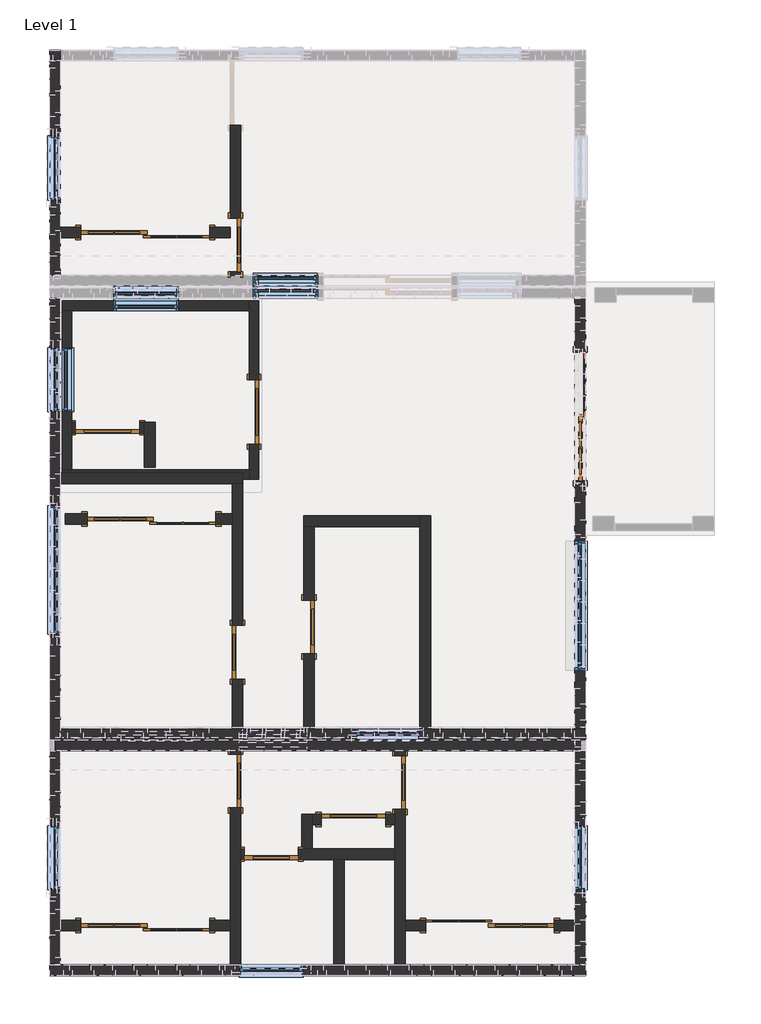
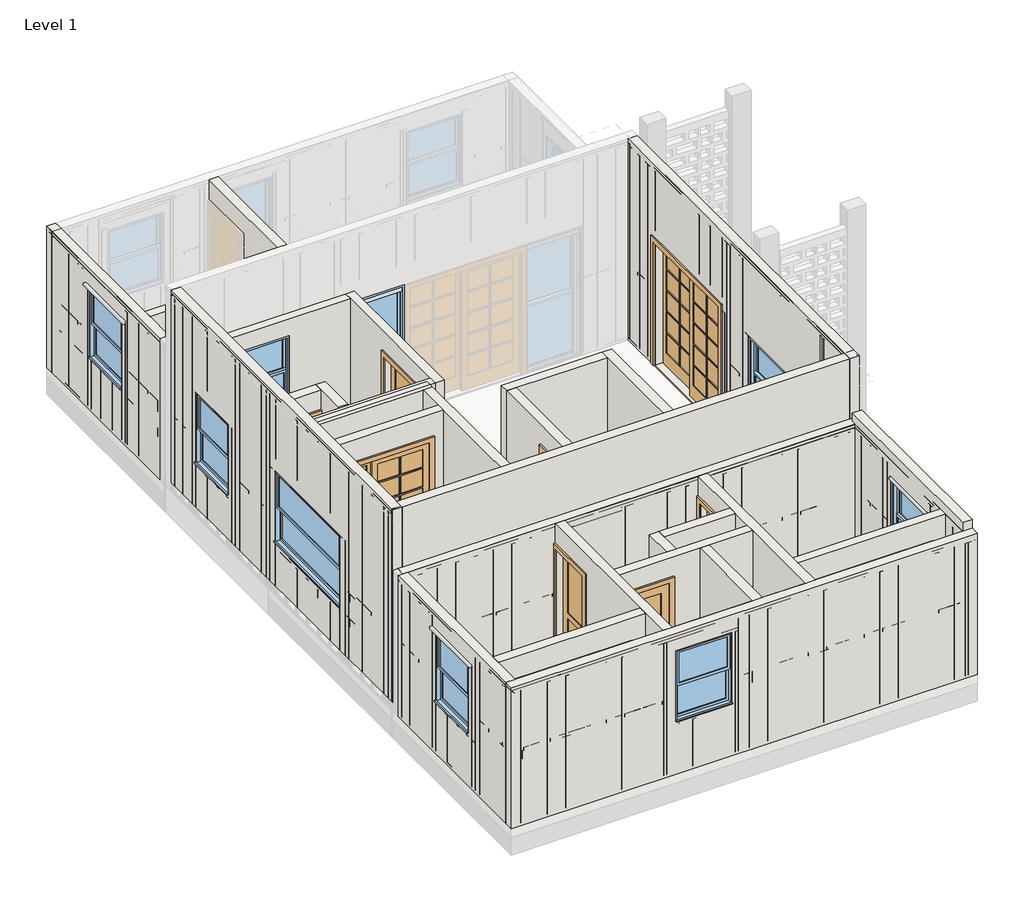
# One storey, part 1 of 12: 30 walls, 14 doors, 13 windows.
"""IFC4 building model written with IfcOpenShell, lengths in millimetres."""

from ifc_helpers import new_model, si_unit, frame, origin, origin_with_axes, place, context, project, spatial, polyline, outline, extrude, faceted_brep, transform, mapped, element, save
from components import door_de661ade, door_8a7407ed, door_c7a96677, door_d17baa25, door_c800ad3f, door_789d9d7f, window_d6fe7540, window_cbc6d26e, window_0abbe968, window_8e2a3c93, window_a0d1c1f7

model = new_model("IFC4")

# Units and contexts
model_context = context("Model", 3, world=origin())
ifc_project = project(units=[si_unit("LENGTHUNIT", "METRE", prefix="MILLI")], contexts=[model_context])

# Site, building, storey
site = spatial("IfcSite", under=ifc_project)
building = spatial("IfcBuilding", under=site)
storey = spatial("IfcBuildingStorey", under=building, Name="Level 1", Elevation=0.0)

# Doors
placement = place(None, origin())
door_shape = door_de661ade(model_context)
element("IfcDoor", 1, ObjectType="Single-Panel 1 : 30\" x 80\"", at=placement, inside=storey, context=model_context, shape_type="MappedRepresentation", body=[
    mapped(door_shape, transform((-8857.5990766, -23941.5763369, 0.0), x_axis=(0.0, 1.0, 0.0), y_axis=(-1.0, 0.0, 0.0), z_axis=(0.0, 0.0, 1.0))),
])
element("IfcDoor", 2, ObjectType="Single-Panel 1 : 30\" x 80\"", at=placement, inside=storey, context=model_context, shape_type="MappedRepresentation", body=[
    mapped(door_shape, transform((-7841.5990766, -23581.2138369, 0.0), x_axis=(0.0, -1.0, 0.0), y_axis=(1.0, 0.0, 0.0), z_axis=(0.0, 0.0, 1.0))),
])
element("IfcDoor", 3, ObjectType="Single-Panel 1 : 30\" x 80\"", at=placement, inside=storey, context=model_context, shape_type="MappedRepresentation", body=[
    mapped(door_shape, transform((-8380.0790766, -26811.7763369, 0.0), x_axis=(-1.0, 0.0, 0.0), y_axis=(0.0, -1.0, 0.0), z_axis=(0.0, 0.0, 1.0))),
])
element("IfcDoor", 4, ObjectType="Single-Panel 1 : 30\" x 80\"", at=placement, inside=storey, context=model_context, shape_type="MappedRepresentation", body=[
    mapped(door_shape, transform((-8888.0790766, -25770.3763369, 0.0), x_axis=(0.0, -1.0, 0.0), y_axis=(1.0, 0.0, 0.0), z_axis=(0.0, 0.0, 1.0))),
])
element("IfcDoor", 5, ObjectType="Single-Panel 1 : 30\" x 80\"", at=placement, inside=storey, context=model_context, shape_type="MappedRepresentation", body=[
    mapped(door_shape, transform((-6551.2790766, -25790.9824702, 0.0), x_axis=(0.0, -1.0, 0.0), y_axis=(1.0, 0.0, 0.0), z_axis=(0.0, 0.0, 1.0))),
])
door_2_shape = door_8a7407ed(model_context)
element("IfcDoor", 6, ObjectType="Single-Panel 1 : 30\" x 80\"", at=placement, inside=storey, context=model_context, shape_type="MappedRepresentation", body=[
    mapped(door_2_shape, transform((-8888.0790766, -18150.4431336, 0.0), x_axis=(0.0, 1.0, 0.0), y_axis=(-1.0, 0.0, 0.0), z_axis=(0.0, 0.0, 1.0))),
])
door_3_shape = door_c7a96677(model_context)
element("IfcDoor", 7, ObjectType="Single-Panel 1 : 36\" x 80\"", at=placement, inside=storey, context=model_context, shape_type="MappedRepresentation", body=[
    mapped(door_3_shape, transform((-8625.7705933, -20524.5216019, 0.0), x_axis=(0.0, 1.0, 0.0), y_axis=(-1.0, 0.0, 0.0), z_axis=(0.0, 0.0, 1.0))),
])
door_4_shape = door_d17baa25(model_context)
element("IfcDoor", 8, ObjectType="Single-Panel 1 : 36\" x 80\"", at=placement, inside=storey, context=model_context, shape_type="MappedRepresentation", body=[
    mapped(door_4_shape, transform((-7211.6790766, -26319.5886036, 0.0), x_axis=(1.0, 0.0, 0.0), y_axis=(0.0, 1.0, 0.0), z_axis=(0.0, 0.0, 1.0))),
])
element("IfcDoor", 9, ObjectType="Single-Panel 1 : 36\" x 80\"", at=placement, inside=storey, context=model_context, shape_type="MappedRepresentation", body=[
    mapped(door_4_shape, transform((-10707.9890766, -20750.7013369, 0.0), x_axis=(-1.0, 0.0, 0.0), y_axis=(0.0, -1.0, 0.0), z_axis=(0.0, 0.0, 1.0))),
])
door_5_shape = door_c800ad3f(model_context)
element("IfcDoor", 10, ObjectType="Sliding-2 Panel 2 : 72\" x 78\"", at=placement, inside=storey, context=model_context, shape_type="MappedRepresentation", body=[
    mapped(door_5_shape, transform((-5268.5790766, -27951.6013369, 0.0), x_axis=(1.0, 0.0, 0.0), y_axis=(0.0, 1.0, 0.0), z_axis=(0.0, 0.0, 1.0))),
])
element("IfcDoor", 11, ObjectType="Sliding-2 Panel 2 : 72\" x 78\"", at=placement, inside=storey, context=model_context, shape_type="MappedRepresentation", body=[
    mapped(door_5_shape, transform((-10170.7790766, -27697.6013369, 0.0), x_axis=(-1.0, 0.0, 0.0), y_axis=(0.0, -1.0, 0.0), z_axis=(0.0, 0.0, 1.0))),
])
element("IfcDoor", 12, ObjectType="Sliding-2 Panel 2 : 72\" x 78\"", at=placement, inside=storey, context=model_context, shape_type="MappedRepresentation", body=[
    mapped(door_5_shape, transform((-10083.1490766, -21919.1013369, 0.0), x_axis=(-1.0, 0.0, 0.0), y_axis=(0.0, -1.0, 0.0), z_axis=(0.0, 0.0, 1.0))),
])
element("IfcDoor", 13, ObjectType="Sliding-2 Panel 2 : 72\" x 78\"", at=placement, inside=storey, context=model_context, shape_type="MappedRepresentation", body=[
    mapped(door_5_shape, transform((-10170.7790766, -17845.6431336, 0.0), x_axis=(-1.0, 0.0, 0.0), y_axis=(0.0, -1.0, 0.0), z_axis=(0.0, 0.0, 1.0))),
])
door_6_shape = door_789d9d7f(model_context)
element("IfcDoor", 14, ObjectType="Sliding-2 Panel 2 : 72\" x 84\"", at=placement, inside=storey, context=model_context, shape_type="MappedRepresentation", body=[
    mapped(door_6_shape, transform((-4112.8790766, -20588.7763369, 25.4), x_axis=(0.0, -1.0, 0.0), y_axis=(1.0, 0.0, 0.0), z_axis=(0.0, 0.0, 1.0))),
])

# Walls
element("IfcWall", 15, ObjectType="CWXX - 6in CIP Conc", at=placement, inside=storey, context=model_context, shape_type="SweptSolid", body=[
    extrude(outline(polyline([(-18912.3763369, 152.4), (-25186.1763369, 152.4), (-25186.1763369, 3479.8), (-18912.3763369, 3479.8), (-18912.3763369, 152.4)]), holes=[polyline([(-21858.7763369, 2133.6), (-23687.5763369, 2133.6), (-23687.5763369, 914.4), (-21858.7763369, 914.4), (-21858.7763369, 2133.6)]), polyline([(-19610.8763369, 2133.6), (-20525.2763369, 2133.6), (-20525.2763369, 914.4), (-19610.8763369, 914.4), (-19610.8763369, 2133.6)])]), frame((-11529.6790766, 0.0, 0.0), z_axis=(1.0, 0.0, 0.0), x_axis=(0.0, 1.0, 0.0)), (0.0, 0.0, 1.0), 152.4),
])
element("IfcWall", 16, ObjectType="CWXX - 6in CIP Conc", at=placement, inside=storey, context=model_context, shape_type="Brep", body=[
    faceted_brep([(-11377.2790766, -25186.1763369, 0.0), (-3985.8790766, -25186.1763369, 0.0), (-3909.6790766, -25186.1763369, 0.0), (-3909.6790766, -25186.1763369, 3482.456975), (-11377.2790766, -25186.1763369, 3482.456975), (-11377.2790766, -25186.1763369, 3479.8), (-11377.2790766, -25186.1763369, 152.4), (-7181.199102, -25186.1763369, 2133.6), (-6266.799102, -25186.1763369, 2133.6), (-6266.799102, -25186.1763369, 914.4), (-7181.199102, -25186.1763369, 914.4), (-11377.2790766, -25033.7763369, 0.0), (-11377.2790766, -25033.7763369, 3482.456975), (-3909.6790766, -25033.7763369, 3482.456975), (-3909.6790766, -25033.7763369, 0.0), (-6114.399102, -25033.7763369, 0.0), (-6266.799102, -25033.7763369, 0.0), (-7765.3990766, -25033.7763369, 0.0), (-7917.7990766, -25033.7763369, 0.0), (-8781.3990766, -25033.7763369, 0.0), (-8933.7990766, -25033.7763369, 0.0), (-7181.199102, -25033.7763369, 2133.6), (-7181.199102, -25033.7763369, 914.4), (-6266.799102, -25033.7763369, 914.4), (-6266.799102, -25033.7763369, 2133.6)], [[[0, 1, 2, 3, 4, 5, 6], [7, 8, 9, 10]], [[11, 12, 13, 14, 15, 16, 17, 18, 19, 20], [21, 22, 23, 24]], [[2, 1, 0, 11, 20, 19, 18, 17, 16, 15, 14]], [[4, 3, 13, 12]], [[22, 21, 7, 10]], [[23, 22, 10, 9]], [[24, 23, 9, 8]], [[21, 24, 8, 7]], [[2, 14, 13, 3]], [[0, 6, 5, 4, 12, 11]]]),
])
element("IfcWall", 17, ObjectType="CWXX - 6in CIP Conc", at=placement, inside=storey, context=model_context, shape_type="Brep", body=[
    faceted_brep([(-4062.0790766, -18912.3763369, 0.0), (-4062.0790766, -25186.1763369, 0.0), (-4062.0790766, -25186.1763369, 3482.456975), (-4062.0790766, -18912.3763369, 3482.456975), (-4062.0790766, -19674.3763369, 2159.0), (-4062.0790766, -21503.1763369, 2159.0), (-4062.0790766, -21503.1763369, 25.4), (-4062.0790766, -19674.3763369, 25.4), (-4062.0790766, -24195.1814003, 2133.6), (-4062.0790766, -24195.1814003, 914.4), (-4062.0790766, -22366.3814003, 914.4), (-4062.0790766, -22366.3814003, 2133.6), (-3909.6790766, -18912.3763369, 0.0), (-3909.6790766, -18912.3763369, 3482.456975), (-3909.6790766, -25186.1763369, 3482.456975), (-3909.6790766, -25186.1763369, 0.0), (-3909.6790766, -19674.3763369, 2159.0), (-3909.6790766, -19674.3763369, 25.4), (-3909.6790766, -21503.1763369, 25.4), (-3909.6790766, -21503.1763369, 2159.0), (-3909.6790766, -24195.1814003, 2133.6), (-3909.6790766, -22366.3814003, 2133.6), (-3909.6790766, -22366.3814003, 914.4), (-3909.6790766, -24195.1814003, 914.4), (-3985.8790766, -25186.1763369, 0.0)], [[[0, 1, 2, 3], [4, 5, 6, 7], [8, 9, 10, 11]], [[12, 13, 14, 15], [16, 17, 18, 19], [20, 21, 22, 23]], [[1, 0, 12, 15, 24]], [[3, 2, 14, 13]], [[0, 3, 13, 12]], [[17, 16, 4, 7]], [[18, 17, 7, 6]], [[19, 18, 6, 5]], [[16, 19, 5, 4]], [[9, 8, 20, 23]], [[10, 9, 23, 22]], [[11, 10, 22, 21]], [[8, 11, 21, 20]], [[2, 1, 24, 15, 14]]]),
])
element("IfcWall", 18, ObjectType="CWXX - 6in CIP Conc", at=placement, inside=storey, context=model_context, shape_type="Brep", body=[
    faceted_brep([(-11377.2790766, -21544.4513369, 0.0), (-8933.7990766, -21544.4513369, 0.0), (-8781.3990766, -21544.4513369, 0.0), (-8781.3990766, -21544.4513369, 2438.4), (-8933.7990766, -21544.4513369, 2438.4), (-11353.2990766, -21544.4513369, 2438.4), (-11377.2790766, -21544.4513369, 2438.4), (-11377.2790766, -21392.0513369, 0.0), (-11377.2790766, -21392.0513369, 2438.4), (-11353.2990766, -21392.0513369, 2438.4), (-8781.3990766, -21392.0513369, 2438.4), (-8781.3990766, -21392.0513369, 0.0), (-8781.3990766, -21483.5216019, 2438.4), (-11377.2790766, -21483.5216019, 2438.4), (-11353.2990766, -21483.5216019, 2438.4)], [[[0, 1, 2, 3, 4, 5, 6]], [[7, 8, 9, 10, 11]], [[2, 1, 0, 7, 11]], [[3, 2, 11, 10, 12]], [[0, 6, 13, 8, 7]], [[9, 8, 13, 14]], [[5, 4, 3, 12, 14]], [[6, 5, 14, 13]], [[12, 10, 9, 14]]]),
])
element("IfcWall", 19, ObjectType="CWXX - 6in CIP Conc", at=placement, inside=storey, context=model_context, shape_type="Brep", body=[
    faceted_brep([(-8933.7990766, -21544.4513369, 0.0), (-8933.7990766, -21969.9013369, 0.0), (-8933.7990766, -22122.3013369, 0.0), (-8933.7990766, -23560.5763369, 0.0), (-8933.7990766, -23560.5763369, 2032.0), (-8933.7990766, -24322.5763369, 2032.0), (-8933.7990766, -24322.5763369, 0.0), (-8933.7990766, -25033.7763369, 0.0), (-8933.7990766, -25033.7763369, 2438.4), (-8933.7990766, -22122.3013369, 2438.4), (-8933.7990766, -21969.9013369, 2438.4), (-8933.7990766, -21544.4513369, 2438.4), (-8781.3990766, -23560.5763369, 2032.0), (-8781.3990766, -23560.5763369, 0.0), (-8781.3990766, -21544.4513369, 0.0), (-8781.3990766, -21544.4513369, 2438.4), (-8781.3990766, -25033.7763369, 2438.4), (-8781.3990766, -25033.7763369, 0.0), (-8781.3990766, -24322.5763369, 0.0), (-8781.3990766, -24322.5763369, 2032.0)], [[[0, 1, 2, 3, 4, 5, 6, 7, 8, 9, 10, 11]], [[12, 13, 14, 15, 16, 17, 18, 19]], [[18, 17, 7, 6]], [[14, 13, 3, 2, 1, 0]], [[11, 10, 9, 8, 16, 15]], [[0, 11, 15, 14]], [[8, 7, 17, 16]], [[4, 3, 13, 12]], [[5, 4, 12, 19]], [[6, 5, 19, 18]]]),
])
element("IfcWall", 20, ObjectType="CWXX - 6in CIP Conc", at=placement, inside=storey, context=model_context, shape_type="Brep", body=[
    faceted_brep([(-6114.399102, -25033.7763369, 0.0), (-6114.399102, -22001.6513369, 0.0), (-6114.399102, -22001.6513369, 2438.4), (-6114.399102, -25033.7763369, 2438.4), (-6266.799102, -25033.7763369, 0.0), (-6266.799102, -25033.7763369, 914.4), (-6266.799102, -25033.7763369, 2133.6), (-6266.799102, -25033.7763369, 2438.4), (-6266.799102, -22154.0513369, 2438.4), (-6266.799102, -22001.6513369, 2438.4), (-6266.799102, -22001.6513369, 0.0), (-6266.799102, -22154.0513369, 0.0)], [[[0, 1, 2, 3]], [[4, 5, 6, 7, 8, 9, 10, 11]], [[1, 0, 4, 11, 10]], [[3, 2, 9, 8, 7]], [[2, 1, 10, 9]], [[0, 3, 7, 6, 5, 4]]]),
])
element("IfcWall", 21, ObjectType="CWXX - 6in CIP Conc", at=placement, inside=storey, context=model_context, shape_type="Brep", body=[
    faceted_brep([(-7917.7990766, -22154.0513369, 0.0), (-7765.3990766, -22154.0513369, 0.0), (-6266.799102, -22154.0513369, 0.0), (-6266.799102, -22154.0513369, 2438.4), (-7765.3990766, -22154.0513369, 2438.4), (-7917.7990766, -22154.0513369, 2438.4), (-7917.7990766, -22001.6513369, 0.0), (-7917.7990766, -22001.6513369, 2438.4), (-6266.799102, -22001.6513369, 2438.4), (-6266.799102, -22001.6513369, 0.0)], [[[0, 1, 2, 3, 4, 5]], [[6, 7, 8, 9]], [[2, 1, 0, 6, 9]], [[5, 4, 3, 8, 7]], [[3, 2, 9, 8]], [[0, 5, 7, 6]]]),
])
element("IfcWall", 22, ObjectType="CWXX - 6in CIP Conc", at=placement, inside=storey, context=model_context, shape_type="SweptSolid", body=[
    extrude(outline(polyline([(-23962.2138369, 2032.0), (-23962.2138369, 0.0), (-25033.7763369, 0.0), (-25033.7763369, 2438.4), (-22154.0513369, 2438.4), (-22154.0513369, 0.0), (-23200.2138369, 0.0), (-23200.2138369, 2032.0), (-23962.2138369, 2032.0)])), frame((-7917.7990766, 0.0, 0.0), z_axis=(1.0, 0.0, 0.0), x_axis=(0.0, 1.0, 0.0)), (0.0, 0.0, 1.0), 152.4),
])
element("IfcWall", 23, ObjectType="MWXX - 6in Masonry", at=placement, inside=storey, context=model_context, shape_type="Brep", body=[
    faceted_brep([(-11353.2990766, -19083.9763369, 0.0), (-11213.2990766, -19083.9763369, 0.0), (-8695.7705933, -19083.9763369, 0.0), (-8695.7705933, -19083.9763369, 2438.4), (-11213.2990766, -19083.9763369, 2438.4), (-11353.2990766, -19083.9763369, 2438.4), (-9700.8790766, -19083.9763369, 2152.65), (-9700.8790766, -19083.9763369, 933.45), (-10615.2790766, -19083.9763369, 933.45), (-10615.2790766, -19083.9763369, 2152.65), (-11353.2990766, -18943.9763369, 0.0), (-11353.2990766, -18943.9763369, 2438.4), (-8695.7705933, -18943.9763369, 2438.4), (-8695.7705933, -18943.9763369, 0.0), (-9700.8790766, -18943.9763369, 2152.65), (-10615.2790766, -18943.9763369, 2152.65), (-10615.2790766, -18943.9763369, 933.45), (-9700.8790766, -18943.9763369, 933.45)], [[[0, 1, 2, 3, 4, 5], [6, 7, 8, 9]], [[10, 11, 12, 13], [14, 15, 16, 17]], [[2, 1, 0, 10, 13]], [[0, 5, 11, 10]], [[5, 4, 3, 12, 11]], [[7, 6, 14, 17]], [[8, 7, 17, 16]], [[9, 8, 16, 15]], [[6, 9, 15, 14]], [[3, 2, 13, 12]]]),
])
element("IfcWall", 24, ObjectType="MWXX - 6in Masonry", at=placement, inside=storey, context=model_context, shape_type="Brep", body=[
    faceted_brep([(-11213.2990766, -21343.5216019, 0.0), (-11213.2990766, -20826.9013369, 0.0), (-11213.2990766, -20674.5013369, 0.0), (-11213.2990766, -19083.9763369, 0.0), (-11213.2990766, -19083.9763369, 2438.4), (-11213.2990766, -20674.5013369, 2438.4), (-11213.2990766, -20826.9013369, 2438.4), (-11213.2990766, -21343.5216019, 2438.4), (-11213.2990766, -20523.6888369, 2133.6), (-11213.2990766, -19609.2888369, 2133.6), (-11213.2990766, -19609.2888369, 914.4), (-11213.2990766, -20523.6888369, 914.4), (-11353.2990766, -21343.5216019, 0.0), (-11353.2990766, -21343.5216019, 2438.4), (-11353.2990766, -19083.9763369, 2438.4), (-11353.2990766, -19083.9763369, 0.0), (-11353.2990766, -20523.6888369, 2133.6), (-11353.2990766, -20523.6888369, 914.4), (-11353.2990766, -19609.2888369, 914.4), (-11353.2990766, -19609.2888369, 2133.6)], [[[0, 1, 2, 3, 4, 5, 6, 7], [8, 9, 10, 11]], [[12, 13, 14, 15], [16, 17, 18, 19]], [[3, 2, 1, 0, 12, 15]], [[4, 3, 15, 14]], [[17, 16, 8, 11]], [[18, 17, 11, 10]], [[19, 18, 10, 9]], [[16, 19, 9, 8]], [[7, 6, 5, 4, 14, 13]], [[0, 7, 13, 12]]]),
])
element("IfcWall", 25, ObjectType="CWXX - 6in CIP Conc", at=placement, inside=storey, context=model_context, shape_type="Brep", body=[
    faceted_brep([(-11529.6790766, -28538.9763369, 0.0), (-3909.6790766, -28538.9763369, 0.0), (-3909.6790766, -28538.9763369, 2438.4), (-11529.6790766, -28538.9763369, 2438.4), (-8837.2790766, -28538.9763369, 2133.6), (-7922.8790766, -28538.9763369, 2133.6), (-7922.8790766, -28538.9763369, 914.4), (-8837.2790766, -28538.9763369, 914.4), (-11529.6790766, -28386.5763369, 0.0), (-11529.6790766, -28386.5763369, 2438.4), (-11377.2790766, -28386.5763369, 2438.4), (-8964.2790766, -28386.5763369, 2438.4), (-8811.8790766, -28386.5763369, 2438.4), (-7491.0790766, -28386.5763369, 2438.4), (-7338.6790766, -28386.5763369, 2438.4), (-6627.4790766, -28386.5763369, 2438.4), (-6475.0790766, -28386.5763369, 2438.4), (-3909.6790766, -28386.5763369, 2438.4), (-3909.6790766, -28386.5763369, 0.0), (-4062.0790766, -28386.5763369, 0.0), (-6475.0790766, -28386.5763369, 0.0), (-6627.4790766, -28386.5763369, 0.0), (-7338.6790766, -28386.5763369, 0.0), (-7491.0790766, -28386.5763369, 0.0), (-8811.8790766, -28386.5763369, 0.0), (-8964.2790766, -28386.5763369, 0.0), (-11377.2790766, -28386.5763369, 0.0), (-8837.2790766, -28386.5763369, 2133.6), (-8837.2790766, -28386.5763369, 914.4), (-7922.8790766, -28386.5763369, 914.4), (-7922.8790766, -28386.5763369, 2133.6)], [[[0, 1, 2, 3], [4, 5, 6, 7]], [[8, 9, 10, 11, 12, 13, 14, 15, 16, 17, 18, 19, 20, 21, 22, 23, 24, 25, 26], [27, 28, 29, 30]], [[1, 0, 8, 26, 25, 24, 23, 22, 21, 20, 19, 18]], [[3, 2, 17, 16, 15, 14, 13, 12, 11, 10, 9]], [[2, 1, 18, 17]], [[0, 3, 9, 8]], [[28, 27, 4, 7]], [[29, 28, 7, 6]], [[30, 29, 6, 5]], [[27, 30, 5, 4]]]),
])
element("IfcWall", 26, ObjectType="CWXX - 6in CIP Conc", at=placement, inside=storey, context=model_context, shape_type="Brep", body=[
    faceted_brep([(-3909.6790766, -28386.5763369, 0.0), (-3909.6790766, -25338.5763369, 0.0), (-3909.6790766, -25338.5763369, 2438.4), (-3909.6790766, -25262.3763369, 2438.4), (-3909.6790766, -25262.3763369, 2590.8), (-3909.6790766, -28386.5763369, 2590.8), (-3909.6790766, -28386.5763369, 2438.4), (-3909.6790766, -27319.7763369, 2133.6), (-3909.6790766, -26405.3763369, 2133.6), (-3909.6790766, -26405.3763369, 914.4), (-3909.6790766, -27319.7763369, 914.4), (-4062.0790766, -28386.5763369, 0.0), (-4062.0790766, -28386.5763369, 2590.8), (-4062.0790766, -25262.3763369, 2590.8), (-4062.0790766, -25262.3763369, 2438.4), (-4062.0790766, -25338.5763369, 2438.4), (-4062.0790766, -25338.5763369, 0.0), (-4062.0790766, -27748.4013369, 0.0), (-4062.0790766, -27900.8013369, 0.0), (-4062.0790766, -27319.7763369, 2133.6), (-4062.0790766, -27319.7763369, 914.4), (-4062.0790766, -26405.3763369, 914.4), (-4062.0790766, -26405.3763369, 2133.6), (-3985.8790766, -25338.5763369, 0.0), (-3985.8790766, -25338.5763369, 2438.4)], [[[0, 1, 2, 3, 4, 5, 6], [7, 8, 9, 10]], [[11, 12, 13, 14, 15, 16, 17, 18], [19, 20, 21, 22]], [[1, 0, 11, 18, 17, 16, 23]], [[5, 4, 13, 12]], [[0, 6, 5, 12, 11]], [[20, 19, 7, 10]], [[21, 20, 10, 9]], [[22, 21, 9, 8]], [[19, 22, 8, 7]], [[4, 3, 14, 13]], [[2, 1, 23, 16, 15, 24]], [[14, 3, 2, 24, 15]]]),
])
element("IfcWall", 27, ObjectType="CWXX - 6in CIP Conc", at=placement, inside=storey, context=model_context, shape_type="Brep", body=[
    faceted_brep([(-3985.8790766, -25186.1763369, 0.0), (-4062.0790766, -25186.1763369, 0.0), (-11377.2790766, -25186.1763369, 0.0), (-11453.4790766, -25186.1763369, 0.0), (-11453.4790766, -25186.1763369, 2438.4), (-3985.8790766, -25186.1763369, 2438.4), (-3985.8790766, -25338.5763369, 0.0), (-3985.8790766, -25338.5763369, 2438.4), (-4062.0790766, -25338.5763369, 2438.4), (-6475.0790766, -25338.5763369, 2438.4), (-6627.4790766, -25338.5763369, 2438.4), (-8811.8790766, -25338.5763369, 2438.4), (-8964.2790766, -25338.5763369, 2438.4), (-11377.2790766, -25338.5763369, 2438.4), (-11453.4790766, -25338.5763369, 2438.4), (-11453.4790766, -25338.5763369, 0.0), (-11377.2790766, -25338.5763369, 0.0), (-8964.2790766, -25338.5763369, 0.0), (-8811.8790766, -25338.5763369, 0.0), (-6627.4790766, -25338.5763369, 0.0), (-6475.0790766, -25338.5763369, 0.0), (-4062.0790766, -25338.5763369, 0.0)], [[[0, 1, 2, 3, 4, 5]], [[6, 7, 8, 9, 10, 11, 12, 13, 14, 15, 16, 17, 18, 19, 20, 21]], [[3, 2, 1, 0, 6, 21, 20, 19, 18, 17, 16, 15]], [[4, 3, 15, 14]], [[5, 4, 14, 13, 12, 11, 10, 9, 8, 7]], [[0, 5, 7, 6]]]),
])
element("IfcWall", 28, ObjectType="CWXX - 6in CIP Conc", at=placement, inside=storey, context=model_context, shape_type="Brep", body=[
    faceted_brep([(-11529.6790766, -25338.5763369, 0.0), (-11529.6790766, -28386.5763369, 0.0), (-11529.6790766, -28386.5763369, 2438.4), (-11529.6790766, -25338.5763369, 2438.4), (-11529.6790766, -26405.3763369, 2133.6), (-11529.6790766, -27319.7763369, 2133.6), (-11529.6790766, -27319.7763369, 914.4), (-11529.6790766, -26405.3763369, 914.4), (-11377.2790766, -25338.5763369, 0.0), (-11377.2790766, -25338.5763369, 2438.4), (-11377.2790766, -27748.4013369, 2438.4), (-11377.2790766, -27900.8013369, 2438.4), (-11377.2790766, -28386.5763369, 2438.4), (-11377.2790766, -28386.5763369, 0.0), (-11377.2790766, -27900.8013369, 0.0), (-11377.2790766, -27748.4013369, 0.0), (-11377.2790766, -26405.3763369, 2133.6), (-11377.2790766, -26405.3763369, 914.4), (-11377.2790766, -27319.7763369, 914.4), (-11377.2790766, -27319.7763369, 2133.6), (-11453.4790766, -25338.5763369, 0.0), (-11453.4790766, -25338.5763369, 2438.4)], [[[0, 1, 2, 3], [4, 5, 6, 7]], [[8, 9, 10, 11, 12, 13, 14, 15], [16, 17, 18, 19]], [[1, 0, 20, 8, 15, 14, 13]], [[3, 2, 12, 11, 10, 9, 21]], [[17, 16, 4, 7]], [[18, 17, 7, 6]], [[19, 18, 6, 5]], [[16, 19, 5, 4]], [[0, 3, 21, 9, 8, 20]], [[2, 1, 13, 12]]]),
])
element("IfcWall", 29, ObjectType="CWXX - 6in CIP Conc", at=placement, inside=storey, context=model_context, shape_type="Brep", body=[
    faceted_brep([(-8811.8790766, -28386.5763369, 0.0), (-8811.8790766, -26887.9763369, 0.0), (-8811.8790766, -26735.5763369, 0.0), (-8811.8790766, -26151.3763369, 0.0), (-8811.8790766, -26151.3763369, 2032.0), (-8811.8790766, -25389.3763369, 2032.0), (-8811.8790766, -25389.3763369, 0.0), (-8811.8790766, -25338.5763369, 0.0), (-8811.8790766, -25338.5763369, 2438.4), (-8811.8790766, -26735.5763369, 2438.4), (-8811.8790766, -26887.9763369, 2438.4), (-8811.8790766, -28386.5763369, 2438.4), (-8964.2790766, -26151.3763369, 2032.0), (-8964.2790766, -26151.3763369, 0.0), (-8964.2790766, -27748.4013369, 0.0), (-8964.2790766, -27900.8013369, 0.0), (-8964.2790766, -28386.5763369, 0.0), (-8964.2790766, -28386.5763369, 2438.4), (-8964.2790766, -27900.8013369, 2438.4), (-8964.2790766, -27748.4013369, 2438.4), (-8964.2790766, -25338.5763369, 2438.4), (-8964.2790766, -25338.5763369, 0.0), (-8964.2790766, -25389.3763369, 0.0), (-8964.2790766, -25389.3763369, 2032.0)], [[[0, 1, 2, 3, 4, 5, 6, 7, 8, 9, 10, 11]], [[12, 13, 14, 15, 16, 17, 18, 19, 20, 21, 22, 23]], [[22, 21, 7, 6]], [[16, 15, 14, 13, 3, 2, 1, 0]], [[11, 10, 9, 8, 20, 19, 18, 17]], [[0, 11, 17, 16]], [[8, 7, 21, 20]], [[4, 3, 13, 12]], [[5, 4, 12, 23]], [[6, 5, 23, 22]]]),
])
element("IfcWall", 30, ObjectType="CWXX - 6in CIP Conc", at=placement, inside=storey, context=model_context, shape_type="SweptSolid", body=[
    extrude(outline(polyline([(-7338.6790766, -26887.9763369), (-7338.6790766, -28386.5763369), (-7491.0790766, -28386.5763369), (-7491.0790766, -26887.9763369), (-7338.6790766, -26887.9763369)])), origin_with_axes(), (0.0, 0.0, 1.0), 2438.4),
])
element("IfcWall", 31, ObjectType="CWXX - 6in CIP Conc", at=placement, inside=storey, context=model_context, shape_type="Brep", body=[
    faceted_brep([(-6475.0790766, -28386.5763369, 0.0), (-6475.0790766, -27900.8013369, 0.0), (-6475.0790766, -27748.4013369, 0.0), (-6475.0790766, -26171.9824702, 0.0), (-6475.0790766, -26171.9824702, 2032.0), (-6475.0790766, -25409.9824702, 2032.0), (-6475.0790766, -25409.9824702, 0.0), (-6475.0790766, -25338.5763369, 0.0), (-6475.0790766, -25338.5763369, 2438.4), (-6475.0790766, -27748.4013369, 2438.4), (-6475.0790766, -27900.8013369, 2438.4), (-6475.0790766, -28386.5763369, 2438.4), (-6627.4790766, -26171.9824702, 2032.0), (-6627.4790766, -26171.9824702, 0.0), (-6627.4790766, -26243.3886036, 0.0), (-6627.4790766, -26395.7886036, 0.0), (-6627.4790766, -26735.5763369, 0.0), (-6627.4790766, -26887.9763369, 0.0), (-6627.4790766, -28386.5763369, 0.0), (-6627.4790766, -28386.5763369, 2438.4), (-6627.4790766, -26887.9763369, 2438.4), (-6627.4790766, -26735.5763369, 2438.4), (-6627.4790766, -26395.7886036, 2438.4), (-6627.4790766, -26243.3886036, 2438.4), (-6627.4790766, -25338.5763369, 2438.4), (-6627.4790766, -25338.5763369, 0.0), (-6627.4790766, -25409.9824702, 0.0), (-6627.4790766, -25409.9824702, 2032.0)], [[[0, 1, 2, 3, 4, 5, 6, 7, 8, 9, 10, 11]], [[12, 13, 14, 15, 16, 17, 18, 19, 20, 21, 22, 23, 24, 25, 26, 27]], [[26, 25, 7, 6]], [[18, 17, 16, 15, 14, 13, 3, 2, 1, 0]], [[11, 10, 9, 8, 24, 23, 22, 21, 20, 19]], [[0, 11, 19, 18]], [[8, 7, 25, 24]], [[4, 3, 13, 12]], [[5, 4, 12, 27]], [[6, 5, 27, 26]]]),
])
element("IfcWall", 32, ObjectType="CWXX - 6in CIP Conc", at=placement, inside=storey, context=model_context, shape_type="Brep", body=[
    faceted_brep([(-8761.0790766, -26735.5763369, 2032.0), (-8761.0790766, -26735.5763369, 0.0), (-8811.8790766, -26735.5763369, 0.0), (-8811.8790766, -26735.5763369, 2438.4), (-7948.2790766, -26735.5763369, 2438.4), (-7795.8790766, -26735.5763369, 2438.4), (-6627.4790766, -26735.5763369, 2438.4), (-6627.4790766, -26735.5763369, 0.0), (-7795.8790766, -26735.5763369, 0.0), (-7948.2790766, -26735.5763369, 0.0), (-7999.0790766, -26735.5763369, 0.0), (-7999.0790766, -26735.5763369, 2032.0), (-8811.8790766, -26887.9763369, 0.0), (-8761.0790766, -26887.9763369, 0.0), (-8761.0790766, -26887.9763369, 2032.0), (-7999.0790766, -26887.9763369, 2032.0), (-7999.0790766, -26887.9763369, 0.0), (-7491.0790766, -26887.9763369, 0.0), (-7338.6790766, -26887.9763369, 0.0), (-6627.4790766, -26887.9763369, 0.0), (-6627.4790766, -26887.9763369, 2438.4), (-7338.6790766, -26887.9763369, 2438.4), (-7491.0790766, -26887.9763369, 2438.4), (-8811.8790766, -26887.9763369, 2438.4)], [[[0, 1, 2, 3, 4, 5, 6, 7, 8, 9, 10, 11]], [[12, 13, 14, 15, 16, 17, 18, 19, 20, 21, 22, 23]], [[2, 1, 13, 12]], [[10, 9, 8, 7, 19, 18, 17, 16]], [[6, 5, 4, 3, 23, 22, 21, 20]], [[7, 6, 20, 19]], [[3, 2, 12, 23]], [[14, 13, 1, 0]], [[15, 14, 0, 11]], [[16, 15, 11, 10]]]),
])
element("IfcWall", 33, ObjectType="CWXX - 6in CIP Conc", at=placement, inside=storey, context=model_context, shape_type="Brep", body=[
    faceted_brep([(-7948.2790766, -26243.3886036, 0.0), (-7948.2790766, -26735.5763369, 0.0), (-7948.2790766, -26735.5763369, 2438.4), (-7948.2790766, -26243.3886036, 2438.4), (-7795.8790766, -26243.3886036, 0.0), (-7795.8790766, -26243.3886036, 2438.4), (-7795.8790766, -26395.7886036, 2438.4), (-7795.8790766, -26735.5763369, 2438.4), (-7795.8790766, -26735.5763369, 0.0), (-7795.8790766, -26395.7886036, 0.0)], [[[0, 1, 2, 3]], [[4, 5, 6, 7, 8, 9]], [[1, 0, 4, 9, 8]], [[3, 2, 7, 6, 5]], [[2, 1, 8, 7]], [[0, 3, 5, 4]]]),
])
element("IfcWall", 34, ObjectType="CWXX - 6in CIP Conc", at=placement, inside=storey, context=model_context, shape_type="SweptSolid", body=[
    extrude(outline(polyline([(2032.0, -6754.4790766), (0.0, -6754.4790766), (0.0, -6627.4790766), (2438.4, -6627.4790766), (2438.4, -7795.8790766), (0.0, -7795.8790766), (0.0, -7668.8790766), (2032.0, -7668.8790766), (2032.0, -6754.4790766)])), frame((0.0, -26395.7886036, 0.0), z_axis=(0.0, 1.0, 0.0), x_axis=(0.0, 0.0, 1.0)), (0.0, 0.0, 1.0), 152.4),
])
element("IfcWall", 35, ObjectType="CWXX - 6in CIP Conc", at=placement, inside=storey, context=model_context, shape_type="SweptSolid", body=[
    extrude(outline(polyline([(1981.2, -4354.1790766), (0.0, -4354.1790766), (0.0, -4062.0790766), (2438.4, -4062.0790766), (2438.4, -6475.0790766), (0.0, -6475.0790766), (0.0, -6182.9790766), (1981.2, -6182.9790766), (1981.2, -4354.1790766)])), frame((0.0, -27900.8013369, 0.0), z_axis=(0.0, 1.0, 0.0), x_axis=(0.0, 0.0, 1.0)), (0.0, 0.0, 1.0), 152.4),
])
element("IfcWall", 36, ObjectType="CWXX - 6in CIP Conc", at=placement, inside=storey, context=model_context, shape_type="SweptSolid", body=[
    extrude(outline(polyline([(0.0, -11377.2790766), (0.0, -11085.1790766), (1981.2, -11085.1790766), (1981.2, -9256.3790766), (0.0, -9256.3790766), (0.0, -8964.2790766), (2438.4, -8964.2790766), (2438.4, -11377.2790766), (0.0, -11377.2790766)])), frame((0.0, -27900.8013369, 0.0), z_axis=(0.0, 1.0, 0.0), x_axis=(0.0, 0.0, 1.0)), (0.0, 0.0, 1.0), 152.4),
])
element("IfcWall", 37, ObjectType="CWXX - 6in CIP Conc", at=placement, inside=storey, context=model_context, shape_type="Brep", body=[
    faceted_brep([(-10183.4790766, -20674.5013369, 0.0), (-10183.4790766, -20826.9013369, 0.0), (-10183.4790766, -21309.5013369, 0.0), (-10183.4790766, -21309.5013369, 2438.4), (-10183.4790766, -20826.9013369, 2438.4), (-10183.4790766, -20674.5013369, 2438.4), (-10031.0790766, -20674.5013369, 0.0), (-10031.0790766, -20674.5013369, 2438.4), (-10031.0790766, -21309.5013369, 2438.4), (-10031.0790766, -21309.5013369, 0.0)], [[[0, 1, 2, 3, 4, 5]], [[6, 7, 8, 9]], [[2, 1, 0, 6, 9]], [[3, 2, 9, 8]], [[0, 5, 7, 6]], [[5, 4, 3, 8, 7]]]),
])
element("IfcWall", 38, ObjectType="CWXX - 6in CIP Conc", at=placement, inside=storey, context=model_context, shape_type="SweptSolid", body=[
    extrude(outline(polyline([(0.0, -11213.2990766), (0.0, -11165.1890766), (2032.0, -11165.1890766), (2032.0, -10250.7890766), (0.0, -10250.7890766), (0.0, -10183.4790766), (2438.4, -10183.4790766), (2438.4, -11213.2990766), (0.0, -11213.2990766)])), frame((0.0, -20826.9013369, 0.0), z_axis=(0.0, 1.0, 0.0), x_axis=(0.0, 0.0, 1.0)), (0.0, 0.0, 1.0), 152.4),
])
element("IfcWall", 39, ObjectType="CWXX - 6in CIP Conc", at=placement, inside=storey, context=model_context, shape_type="SweptSolid", body=[
    extrude(outline(polyline([(0.0, -11308.6990766), (0.0, -10997.5490766), (1981.2, -10997.5490766), (1981.2, -9168.7490766), (0.0, -9168.7490766), (0.0, -8933.7990766), (2438.4, -8933.7990766), (2438.4, -11308.6990766), (0.0, -11308.6990766)])), frame((0.0, -22122.3013369, 0.0), z_axis=(0.0, 1.0, 0.0), x_axis=(0.0, 0.0, 1.0)), (0.0, 0.0, 1.0), 152.4),
])
element("IfcWall", 40, ObjectType="CWXX - 6in CIP Conc", at=placement, inside=storey, context=model_context, shape_type="Brep", body=[
    faceted_brep([(-11377.2790766, -18582.2431336, 0.0), (-11377.2790766, -18048.8431336, 0.0), (-11377.2790766, -17896.4431336, 0.0), (-11377.2790766, -15534.2431336, 0.0), (-11377.2790766, -15381.8431336, 0.0), (-11377.2790766, -15381.8431336, 2438.4), (-11377.2790766, -15534.2431336, 2438.4), (-11377.2790766, -17896.4431336, 2438.4), (-11377.2790766, -18048.8431336, 2438.4), (-11377.2790766, -18582.2431336, 2438.4), (-11377.2790766, -17515.4431336, 2133.6), (-11377.2790766, -16601.0431336, 2133.6), (-11377.2790766, -16601.0431336, 914.4), (-11377.2790766, -17515.4431336, 914.4), (-11529.6790766, -18582.2431336, 0.0), (-11529.6790766, -18582.2431336, 2438.4), (-11529.6790766, -15381.8431336, 2438.4), (-11529.6790766, -15381.8431336, 0.0), (-11529.6790766, -17515.4431336, 2133.6), (-11529.6790766, -17515.4431336, 914.4), (-11529.6790766, -16601.0431336, 914.4), (-11529.6790766, -16601.0431336, 2133.6)], [[[0, 1, 2, 3, 4, 5, 6, 7, 8, 9], [10, 11, 12, 13]], [[14, 15, 16, 17], [18, 19, 20, 21]], [[4, 3, 2, 1, 0, 14, 17]], [[9, 8, 7, 6, 5, 16, 15]], [[19, 18, 10, 13]], [[20, 19, 13, 12]], [[21, 20, 12, 11]], [[18, 21, 11, 10]], [[5, 4, 17, 16]], [[0, 9, 15, 14]]]),
])
element("IfcWall", 41, ObjectType="CWXX - 6in CIP Conc", at=placement, inside=storey, context=model_context, shape_type="Brep", body=[
    faceted_brep([(-8964.2790766, -18582.2431336, 2438.4), (-8964.2790766, -18048.8431336, 2438.4), (-8964.2790766, -17896.4431336, 2438.4), (-8964.2790766, -15534.2431336, 2438.4), (-8964.2790766, -15534.2431336, 2032.0), (-8964.2790766, -16448.6431336, 2032.0), (-8964.2790766, -16448.6431336, 0.0), (-8964.2790766, -17769.4431336, 0.0), (-8964.2790766, -17769.4431336, 2032.0), (-8964.2790766, -18531.4431336, 2032.0), (-8964.2790766, -18531.4431336, 0.0), (-8964.2790766, -18582.2431336, 0.0), (-8811.8790766, -15534.2431336, 2438.4), (-8811.8790766, -18582.2431336, 2438.4), (-8811.8790766, -18582.2431336, 0.0), (-8811.8790766, -18531.4431336, 0.0), (-8811.8790766, -18531.4431336, 2032.0), (-8811.8790766, -17769.4431336, 2032.0), (-8811.8790766, -17769.4431336, 0.0), (-8811.8790766, -16448.6431336, 0.0), (-8811.8790766, -16448.6431336, 2032.0), (-8811.8790766, -15534.2431336, 2032.0)], [[[0, 1, 2, 3, 4, 5, 6, 7, 8, 9, 10, 11]], [[12, 13, 14, 15, 16, 17, 18, 19, 20, 21]], [[14, 11, 10, 15]], [[18, 7, 6, 19]], [[3, 2, 1, 0, 13, 12]], [[3, 12, 21, 4]], [[0, 11, 14, 13]], [[8, 7, 18, 17]], [[9, 8, 17, 16]], [[10, 9, 16, 15]], [[20, 5, 4, 21]], [[5, 20, 19, 6]]]),
])
element("IfcWall", 42, ObjectType="CWXX - 6in CIP Conc", at=placement, inside=storey, context=model_context, shape_type="SweptSolid", body=[
    extrude(outline(polyline([(0.0, -11377.2790766), (0.0, -11085.1790766), (1981.2, -11085.1790766), (1981.2, -9256.3790766), (0.0, -9256.3790766), (0.0, -8964.2790766), (2438.4, -8964.2790766), (2438.4, -11377.2790766), (0.0, -11377.2790766)])), frame((0.0, -18048.8431336, 0.0), z_axis=(0.0, 1.0, 0.0), x_axis=(0.0, 0.0, 1.0)), (0.0, 0.0, 1.0), 152.4),
])
element("IfcWall", 43, ObjectType="MWXX - 6in Masonry", at=placement, inside=storey, context=model_context, shape_type="Brep", body=[
    faceted_brep([(-8695.7705933, -18943.9763369, 0.0), (-8695.7705933, -19083.9763369, 0.0), (-8695.7705933, -20067.3216019, 0.0), (-8695.7705933, -20067.3216019, 2032.0), (-8695.7705933, -20981.7216019, 2032.0), (-8695.7705933, -20981.7216019, 0.0), (-8695.7705933, -21343.5216019, 0.0), (-8695.7705933, -21483.5216019, 0.0), (-8695.7705933, -21483.5216019, 2438.4), (-8695.7705933, -21343.5216019, 2438.4), (-8695.7705933, -19083.9763369, 2438.4), (-8695.7705933, -18943.9763369, 2438.4), (-8555.7705933, -20067.3216019, 2032.0), (-8555.7705933, -20067.3216019, 0.0), (-8555.7705933, -18943.9763369, 0.0), (-8555.7705933, -18943.9763369, 2438.4), (-8555.7705933, -21483.5216019, 2438.4), (-8555.7705933, -21483.5216019, 0.0), (-8555.7705933, -20981.7216019, 0.0), (-8555.7705933, -20981.7216019, 2032.0)], [[[0, 1, 2, 3, 4, 5, 6, 7, 8, 9, 10, 11]], [[12, 13, 14, 15, 16, 17, 18, 19]], [[18, 17, 7, 6, 5]], [[14, 13, 2, 1, 0]], [[3, 2, 13, 12]], [[4, 3, 12, 19]], [[5, 4, 19, 18]], [[0, 11, 15, 14]], [[8, 7, 17, 16]], [[11, 10, 9, 8, 16, 15]]]),
])
element("IfcWall", 44, ObjectType="MWXX - 6in Masonry", at=placement, inside=storey, context=model_context, shape_type="Brep", body=[
    faceted_brep([(-8695.7705933, -21343.5216019, 0.0), (-11213.2990766, -21343.5216019, 0.0), (-11353.2990766, -21343.5216019, 0.0), (-11353.2990766, -21343.5216019, 2438.4), (-11213.2990766, -21343.5216019, 2438.4), (-8695.7705933, -21343.5216019, 2438.4), (-8695.7705933, -21483.5216019, 0.0), (-8695.7705933, -21483.5216019, 2438.4), (-11353.2990766, -21483.5216019, 2438.4), (-11353.2990766, -21483.5216019, 0.0)], [[[0, 1, 2, 3, 4, 5]], [[6, 7, 8, 9]], [[2, 1, 0, 6, 9]], [[3, 2, 9, 8]], [[0, 5, 7, 6]], [[5, 4, 3, 8, 7]]]),
])

# Windows
window_shape = window_d6fe7540(model_context)
element("IfcWindow", 45, ObjectType="Double Hung : 36\" x 48\"", at=placement, inside=storey, context=model_context, shape_type="MappedRepresentation", body=[
    mapped(window_shape, transform((-6723.999102, -25109.9763369, 0.0), x_axis=(-1.0, 0.0, 0.0), y_axis=(0.0, -1.0, 0.0), z_axis=(0.0, 0.0, 1.0))),
])
element("IfcWindow", 46, ObjectType="Double Hung : 36\" x 48\"", at=placement, inside=storey, context=model_context, shape_type="MappedRepresentation", body=[
    mapped(window_shape, transform((-11453.4790766, -20068.0763369, 0.0), x_axis=(0.0, 1.0, 0.0), y_axis=(-1.0, 0.0, 0.0), z_axis=(0.0, 0.0, 1.0))),
])
element("IfcWindow", 47, ObjectType="Double Hung : 36\" x 48\"", at=placement, inside=storey, context=model_context, shape_type="MappedRepresentation", body=[
    mapped(window_shape, transform((-3985.8790766, -26862.5763369, 0.0), x_axis=(0.0, -1.0, 0.0), y_axis=(1.0, 0.0, 0.0), z_axis=(0.0, 0.0, 1.0))),
])
element("IfcWindow", 48, ObjectType="Double Hung : 36\" x 48\"", at=placement, inside=storey, context=model_context, shape_type="MappedRepresentation", body=[
    mapped(window_shape, transform((-11453.4790766, -26862.5763369, 0.0), x_axis=(0.0, 1.0, 0.0), y_axis=(-1.0, 0.0, 0.0), z_axis=(0.0, 0.0, 1.0))),
])
element("IfcWindow", 49, ObjectType="Double Hung : 36\" x 48\"", at=placement, inside=storey, context=model_context, shape_type="MappedRepresentation", body=[
    mapped(window_shape, transform((-8380.0790766, -28462.7763369, 0.0), x_axis=(-1.0, 0.0, 0.0), y_axis=(0.0, -1.0, 0.0), z_axis=(0.0, 0.0, 1.0))),
])
element("IfcWindow", 50, ObjectType="Double Hung : 36\" x 48\"", at=placement, inside=storey, context=model_context, shape_type="MappedRepresentation", body=[
    mapped(window_shape, transform((-10158.0790766, -18836.1763369, 19.05), x_axis=(1.0, 0.0, 0.0), y_axis=(0.0, 1.0, 0.0), z_axis=(0.0, 0.0, 1.0))),
])
window_2_shape = window_cbc6d26e(model_context)
element("IfcWindow", 51, ObjectType="Double Hung : 36\" x 48\"", at=placement, inside=storey, context=model_context, shape_type="MappedRepresentation", body=[
    mapped(window_2_shape, transform((-11453.4790766, -17058.2431336, 0.0), x_axis=(0.0, -1.0, 0.0), y_axis=(1.0, 0.0, 0.0), z_axis=(0.0, 0.0, 1.0))),
])
window_3_shape = window_0abbe968(model_context)
element("IfcWindow", 52, ObjectType="Double Hung : 36\" x 48\"", at=placement, inside=storey, context=model_context, shape_type="MappedRepresentation", body=[
    mapped(window_3_shape, transform((-11283.2990766, -20066.4888369, 0.0), x_axis=(0.0, -1.0, 0.0), y_axis=(1.0, 0.0, 0.0), z_axis=(0.0, 0.0, 1.0))),
])
element("IfcWindow", 53, ObjectType="Double Hung : 36\" x 48\"", at=placement, inside=storey, context=model_context, shape_type="MappedRepresentation", body=[
    mapped(window_3_shape, transform((-10158.0790766, -19013.9763369, 19.05), x_axis=(1.0, 0.0, 0.0), y_axis=(0.0, 1.0, 0.0), z_axis=(0.0, 0.0, 1.0))),
])
window_4_shape = window_8e2a3c93(model_context)
element("IfcWindow", 54, ObjectType="Double Hung : 36\" x 72\"", at=placement, inside=storey, context=model_context, shape_type="MappedRepresentation", body=[
    mapped(window_4_shape, transform((-8176.8790766, -18836.1763369, -279.4), x_axis=(1.0, 0.0, 0.0), y_axis=(0.0, 1.0, 0.0), z_axis=(0.0, 0.0, 1.0))),
])
element("IfcWindow", 55, ObjectType="Double Hung : 36\" x 72\"", at=placement, inside=storey, context=model_context, shape_type="MappedRepresentation", body=[
    mapped(window_4_shape, transform((-8176.8790766, -18658.4431336, -279.4), x_axis=(1.0, 0.0, 0.0), y_axis=(0.0, 1.0, 0.0), z_axis=(0.0, 0.0, 1.0))),
])
window_5_shape = window_a0d1c1f7(model_context)
element("IfcWindow", 56, ObjectType="Double Hung : 36\" x 72\" 2", at=placement, inside=storey, context=model_context, shape_type="MappedRepresentation", body=[
    mapped(window_5_shape, transform((-11453.4790766, -22773.1763369, 0.0), x_axis=(0.0, 1.0, 0.0), y_axis=(-1.0, 0.0, 0.0), z_axis=(0.0, 0.0, 1.0))),
])
element("IfcWindow", 57, ObjectType="Double Hung : 36\" x 72\" 2", at=placement, inside=storey, context=model_context, shape_type="MappedRepresentation", body=[
    mapped(window_5_shape, transform((-3985.8790766, -23280.7814003, 0.0), x_axis=(0.0, -1.0, 0.0), y_axis=(1.0, 0.0, 0.0), z_axis=(0.0, 0.0, 1.0))),
])

save(model, "model.ifc")
